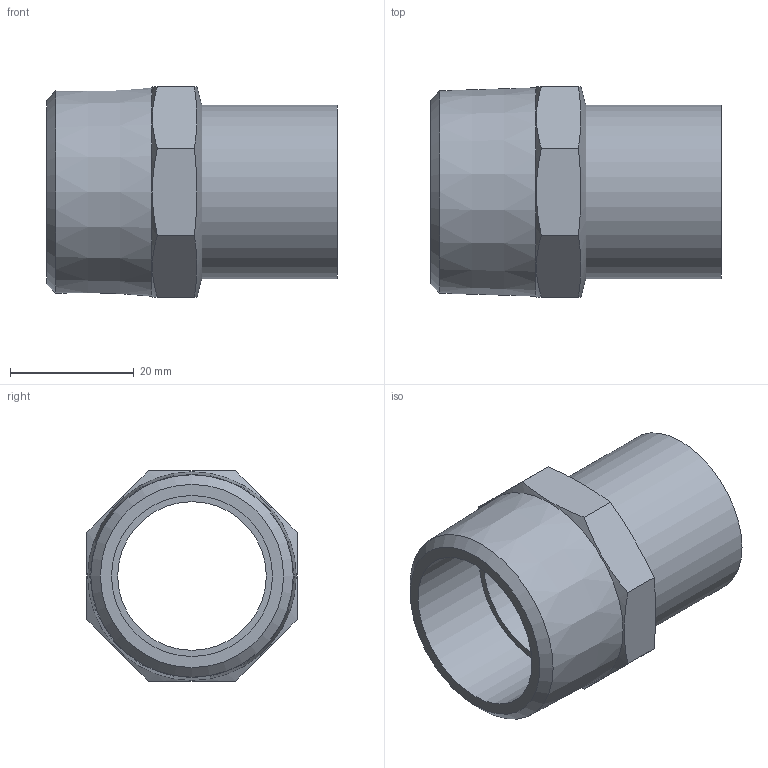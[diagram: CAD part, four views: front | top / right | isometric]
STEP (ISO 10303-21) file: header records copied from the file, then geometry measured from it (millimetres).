
FILE_DESCRIPTION((''),'2;1');
FILE_NAME('\\lg50001\SANHA_Legnica\Engineering\Public\RYSUNKI\SANHA POLSKA\4280G\step\14246g_28-1(1).stp','2012-06-21T15:53:55',('pajchrowski'),(''),'Autodesk Inventor 2009','Autodesk Inventor 2009','');
FILE_SCHEMA(('AUTOMOTIVE_DESIGN { 1 0 10303 214 1 1 1 1 }'));
Length unit declared in the file: millimetre
Products named in the file (1): 14246g_28-1(1)
Bounding box: 47 x 34 x 34 mm (x, y, z)
Volume: 13235.8 mm3; surface area: 8982.1 mm2
Topology: 1 solids, 1 shells, 26 faces, 66 edges, 43 vertices
Faces by surface type: plane 11, cylinder 11, cone 4
Full cylindrical faces by diameter (mm): 24 x1, 26 x1, 28 x1
Entity records: 752 total; most frequent: CARTESIAN_POINT 157, DIRECTION 120, ORIENTED_EDGE 114, EDGE_CURVE 57, AXIS2_PLACEMENT_3D 52, VERTEX_POINT 41, EDGE_LOOP 36, FACE_OUTER_BOUND 26
